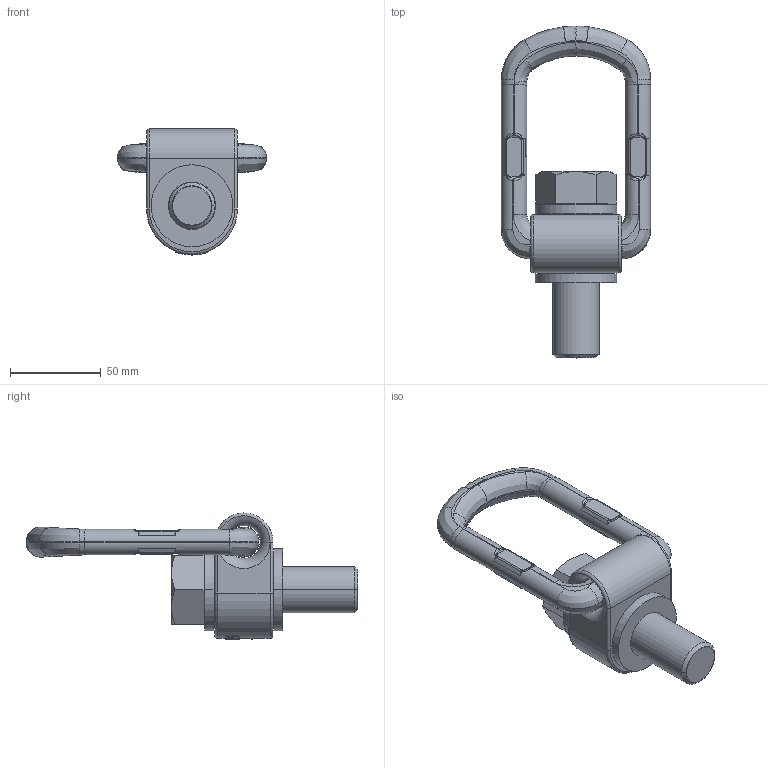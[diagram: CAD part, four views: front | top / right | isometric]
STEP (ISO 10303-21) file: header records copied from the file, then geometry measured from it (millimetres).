
FILE_DESCRIPTION((''),'2;1');
FILE_NAME('4VLBG-4T-1Z-8UNC','2005-01-20T',('jakubetz'),(''),'PRO/ENGINEER BY PARAMETRIC TECHNOLOGY CORPORATION, 2001400','PRO/ENGINEER BY PARAMETRIC TECHNOLOGY CORPORATION, 2001400','');
FILE_SCHEMA(('CONFIG_CONTROL_DESIGN'));
Length unit declared in the file: millimetre
Products named in the file (1): 4VLBG-4T-1Z-8UNC
Bounding box: 82 x 182.5 x 69.3 mm (x, y, z)
Volume: 139912.7 mm3; surface area: 59698.3 mm2
Topology: 3 solids, 5 shells, 1009 faces, 2639 edges, 1678 vertices
Faces by surface type: plane 668, bspline 116, cylinder 107, extrusion 50, torus 40, sphere 16, cone 12
Entity records: 36721 total; most frequent: CARTESIAN_POINT 13379, ORIENTED_EDGE 5270, DIRECTION 4047, EDGE_CURVE 2639, VECTOR 1837, LINE 1787, VERTEX_POINT 1678, AXIS2_PLACEMENT_3D 1105
